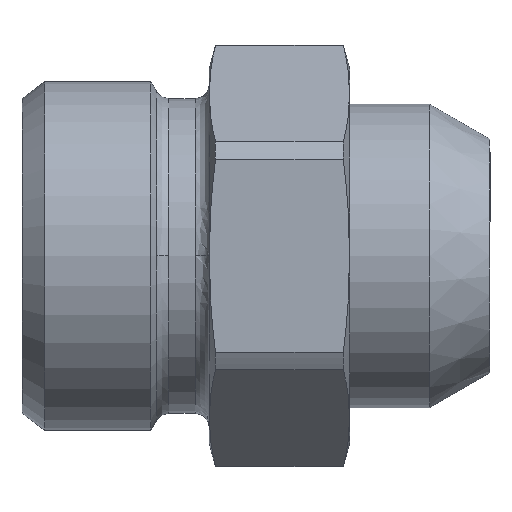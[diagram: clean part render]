
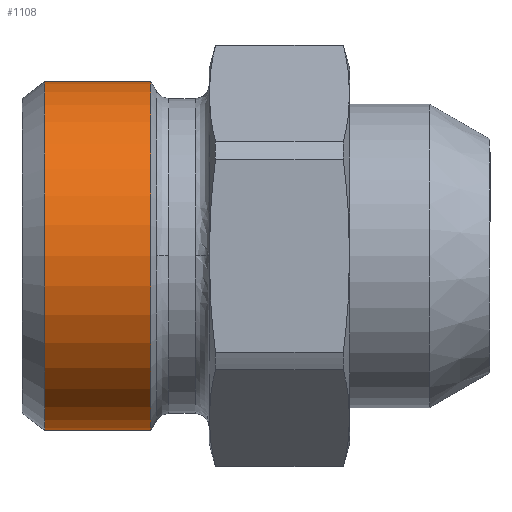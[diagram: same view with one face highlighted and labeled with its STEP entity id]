
A CAD part, top view. The second image highlights one B-rep face of the part: STEP entity #1108.
In plain terms, the highlighted cylindrical face has radius 14.91 mm (diameter 29.82 mm), a partial arc.
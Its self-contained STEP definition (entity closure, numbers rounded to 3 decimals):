
#442=CARTESIAN_POINT('',(0.,-14.91,20.063));
#443=VERTEX_POINT('',#442);
#444=CARTESIAN_POINT('',(0.,-14.91,10.993));
#445=VERTEX_POINT('',#444);
#446=CARTESIAN_POINT('',(0.,-14.91,20.063));
#447=DIRECTION('',(0.0,0.0,-1.0));
#448=VECTOR('',#447,9.07);
#449=LINE('',#446,#448);
#450=EDGE_CURVE('',#443,#445,#449,.T.);
#452=CARTESIAN_POINT('',(0.,14.91,20.063));
#453=VERTEX_POINT('',#452);
#461=CARTESIAN_POINT('',(0.,14.91,10.993));
#462=VERTEX_POINT('',#461);
#463=CARTESIAN_POINT('',(0.,14.91,10.993));
#464=DIRECTION('',(0.0,0.0,1.0));
#465=VECTOR('',#464,9.07);
#466=LINE('',#463,#465);
#467=EDGE_CURVE('',#462,#453,#466,.T.);
#984=CARTESIAN_POINT('',(0.,0.0,10.993));
#985=DIRECTION('',(0.0,0.0,-1.0));
#986=DIRECTION('',(0.0,-1.0,0.0));
#987=AXIS2_PLACEMENT_3D('',#984,#985,#986);
#988=CIRCLE('',#987,14.91);
#989=EDGE_CURVE('',#462,#445,#988,.T.);
#1085=CARTESIAN_POINT('',(0.,0.,20.063));
#1086=DIRECTION('',(0.0,0.0,-1.0));
#1087=DIRECTION('',(0.0,-1.0,0.0));
#1088=AXIS2_PLACEMENT_3D('',#1085,#1086,#1087);
#1089=CIRCLE('',#1088,14.91);
#1090=EDGE_CURVE('',#453,#443,#1089,.T.);
#1097=CARTESIAN_POINT('',(0.,0.,15.528));
#1098=DIRECTION('',(0.,0.,-1.0));
#1099=DIRECTION('',(0.0,-1.0,0.0));
#1100=AXIS2_PLACEMENT_3D('',#1097,#1098,#1099);
#1101=CYLINDRICAL_SURFACE('',#1100,14.91);
#1102=ORIENTED_EDGE('',*,*,#450,.T.);
#1103=ORIENTED_EDGE('',*,*,#989,.F.);
#1104=ORIENTED_EDGE('',*,*,#467,.T.);
#1105=ORIENTED_EDGE('',*,*,#1090,.T.);
#1106=EDGE_LOOP('',(#1102,#1103,#1104,#1105));
#1107=FACE_OUTER_BOUND('',#1106,.T.);
#1108=ADVANCED_FACE('',(#1107),#1101,.T.);
